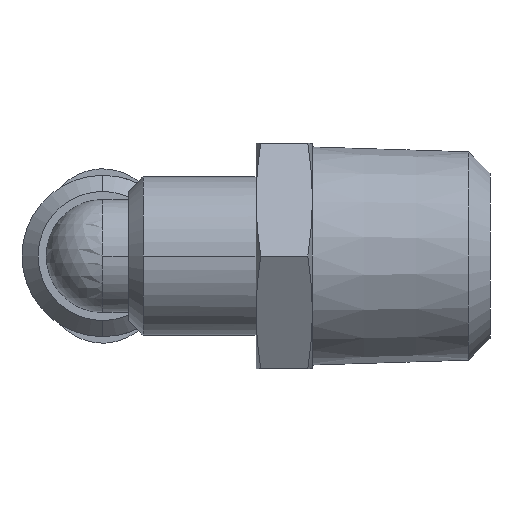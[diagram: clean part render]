
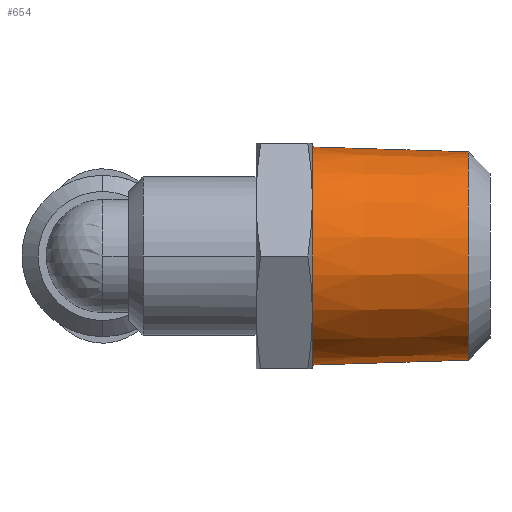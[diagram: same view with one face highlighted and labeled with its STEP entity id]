
A CAD part, left-side view. The second image highlights one B-rep face of the part: STEP entity #654.
In plain terms, the highlighted conical face has half-angle 1.79 degrees and reference radius 6.756 mm.
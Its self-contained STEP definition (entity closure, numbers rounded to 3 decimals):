
#6 = CARTESIAN_POINT ( 'NONE',  ( 0., -4.658, 0. ) ) ;
#28 = CARTESIAN_POINT ( 'NONE',  ( 0., 5., 6.756 ) ) ;
#42 = DIRECTION ( 'NONE',  ( 0., 1., 0. ) ) ;
#127 = DIRECTION ( 'NONE',  ( 0., 0., -1. ) ) ;
#162 = CARTESIAN_POINT ( 'NONE',  ( 0., 5., 0. ) ) ;
#167 = LINE ( 'NONE', #28, #1414 ) ;
#271 = EDGE_CURVE ( 'NONE', #950, #1403, #1083, .T. ) ;
#319 = DIRECTION ( 'NONE',  ( 0., 0., 1. ) ) ;
#422 = CARTESIAN_POINT ( 'NONE',  ( 0., -4.658, -6.454 ) ) ;
#441 = AXIS2_PLACEMENT_3D ( 'NONE', #798, #789, #717 ) ;
#443 = VERTEX_POINT ( 'NONE', #1281 ) ;
#455 = LINE ( 'NONE', #971, #1117 ) ;
#467 = DIRECTION ( 'NONE',  ( 0., 1., -0.031 ) ) ;
#504 = ORIENTED_EDGE ( 'NONE', *, *, #1473, .T. ) ;
#578 = DIRECTION ( 'NONE',  ( 0., 1., 0.031 ) ) ;
#603 = DIRECTION ( 'NONE',  ( 0., 1., 0. ) ) ;
#654 = ADVANCED_FACE ( 'NONE', ( #733 ), #687, .T. ) ;
#687 = CONICAL_SURFACE ( 'NONE', #1153, 6.756, 0.031 ) ;
#717 = DIRECTION ( 'NONE',  ( 0., 0., 1. ) ) ;
#733 = FACE_OUTER_BOUND ( 'NONE', #1482, .T. ) ;
#789 = DIRECTION ( 'NONE',  ( 0., 1., 0. ) ) ;
#798 = CARTESIAN_POINT ( 'NONE',  ( 0., 5., 0. ) ) ;
#816 = ORIENTED_EDGE ( 'NONE', *, *, #938, .T. ) ;
#938 = EDGE_CURVE ( 'NONE', #443, #1403, #167, .T. ) ;
#950 = VERTEX_POINT ( 'NONE', #1303 ) ;
#971 = CARTESIAN_POINT ( 'NONE',  ( 0., 5., -6.756 ) ) ;
#1030 = AXIS2_PLACEMENT_3D ( 'NONE', #6, #603, #127 ) ;
#1067 = VERTEX_POINT ( 'NONE', #422 ) ;
#1083 = CIRCLE ( 'NONE', #441, 6.756 ) ;
#1117 = VECTOR ( 'NONE', #467, 1000. ) ;
#1124 = ORIENTED_EDGE ( 'NONE', *, *, #1425, .F. ) ;
#1153 = AXIS2_PLACEMENT_3D ( 'NONE', #162, #42, #319 ) ;
#1246 = ORIENTED_EDGE ( 'NONE', *, *, #271, .F. ) ;
#1281 = CARTESIAN_POINT ( 'NONE',  ( 0., -4.658, 6.454 ) ) ;
#1303 = CARTESIAN_POINT ( 'NONE',  ( 0., 5., -6.756 ) ) ;
#1374 = CIRCLE ( 'NONE', #1030, 6.454 ) ;
#1380 = CARTESIAN_POINT ( 'NONE',  ( 0., 5., 6.756 ) ) ;
#1403 = VERTEX_POINT ( 'NONE', #1380 ) ;
#1414 = VECTOR ( 'NONE', #578, 1000. ) ;
#1425 = EDGE_CURVE ( 'NONE', #1067, #950, #455, .T. ) ;
#1473 = EDGE_CURVE ( 'NONE', #1067, #443, #1374, .T. ) ;
#1482 = EDGE_LOOP ( 'NONE', ( #1124, #504, #816, #1246 ) ) ;
